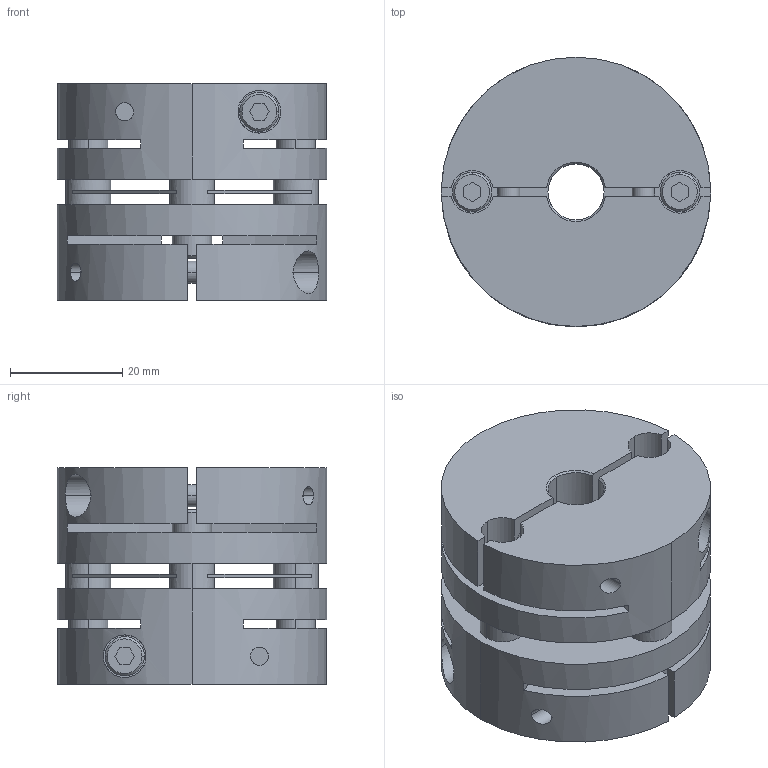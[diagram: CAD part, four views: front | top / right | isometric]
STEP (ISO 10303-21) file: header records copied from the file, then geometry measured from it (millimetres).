
FILE_DESCRIPTION((''),'2;1');
FILE_NAME('LAS-48C-10×14.stp','2015-10-14T15:35:26',(''),(''),'AutoCAD STEP 2000i','AutoCAD 2000i',', , ');
FILE_SCHEMA(('CONFIG_CONTROL_DESIGN'));
Length unit declared in the file: millimetre
Products named in the file (5): LAS-48C-12×12; 忣兜1; LA-4802-D12-1; LA-4802-D12; LAS48-ITA
Assembly tree (4 placements, depth 2):
  LAS-48C-12×12
    忣兜1
    LA-4802-D12-1
    LA-4802-D12
    LAS48-ITA
Bounding box: 48 x 48 x 38.6 mm (x, y, z)
Volume: 51646.5 mm3; surface area: 22715.1 mm2
Topology: 1 solids, 1 shells, 224 faces, 588 edges, 384 vertices
Faces by surface type: plane 112, cylinder 84, cone 28
Entity records: 7607 total; most frequent: CARTESIAN_POINT 1713, DIRECTION 1250, ORIENTED_EDGE 1176, EDGE_CURVE 588, AXIS2_PLACEMENT_3D 457, VERTEX_POINT 384, VECTOR 336, LINE 336
